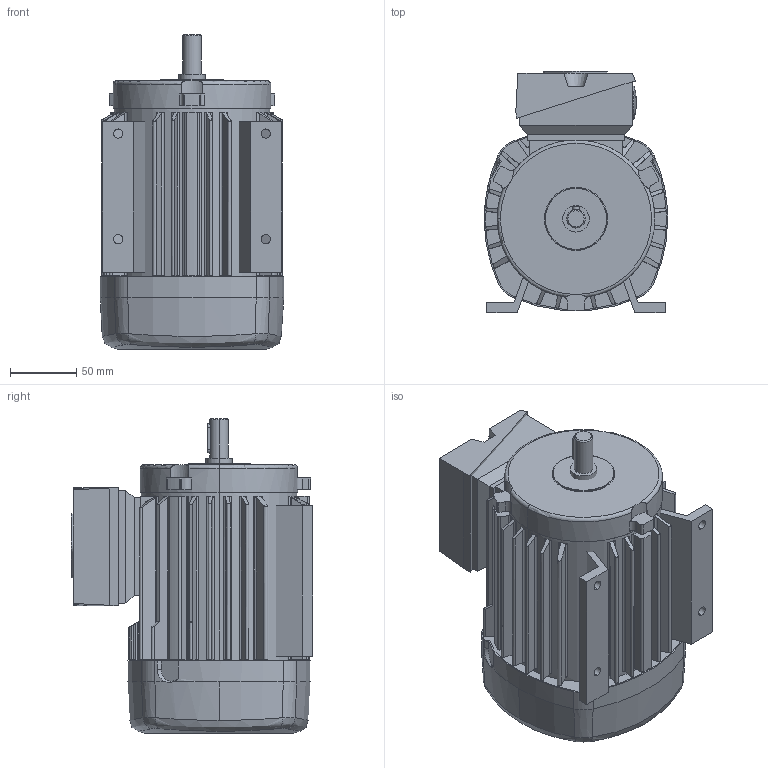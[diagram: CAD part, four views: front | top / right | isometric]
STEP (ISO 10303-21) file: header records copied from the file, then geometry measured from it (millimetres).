
FILE_DESCRIPTION (( 'STEP AP214' ), '1' );
FILE_NAME ('K_R_FG07_B3_14x30.STEP', '2016-06-20T13:00:36', ( '' ), ( '' ), 'SwSTEP 2.0', 'SolidWorks 2013', '' );
FILE_SCHEMA (( 'AUTOMOTIVE_DESIGN' ));
Length unit declared in the file: millimetre
Products named in the file (12): KA05_komplett_Kat; KD05_Kat; Verschluß_Kat; KA05_Kat; WE_RWE_Kat_14x30 (W21R71); FG07; Fuss_Prog_rechts_Kat_F_Prog071_re; Fuss_Prog_links_Kat_F_Prog071_li; RG 07_Kat; LD_Kat_LD07; LHB_Kat_LHB07; K_R_FG07_B3_14x30
Assembly tree (11 placements, depth 3):
  K_R_FG07_B3_14x30
    LHB_Kat_LHB07
    LD_Kat_LD07
    FG07
      RG 07_Kat
      Fuss_Prog_links_Kat_F_Prog071_li
      Fuss_Prog_rechts_Kat_F_Prog071_re
    WE_RWE_Kat_14x30 (W21R71)
    KA05_komplett_Kat
      KA05_Kat
      Verschluß_Kat
      KD05_Kat
Bounding box: 139 x 183 x 238.5 mm (x, y, z)
Volume: 3157892 mm3; surface area: 312354.3 mm2
Topology: 9 solids, 9 shells, 457 faces, 1196 edges, 787 vertices
Faces by surface type: plane 208, cylinder 190, cone 39, torus 10, bspline 8, sphere 2
Entity records: 19881 total; most frequent: CARTESIAN_POINT 4430, ORIENTED_EDGE 2392, DIRECTION 2333, EDGE_CURVE 1196, AXIS2_PLACEMENT_3D 846, VERTEX_POINT 787, VECTOR 641, LINE 641
